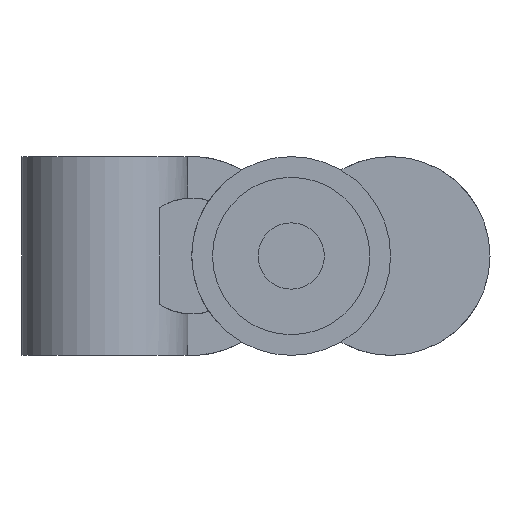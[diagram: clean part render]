
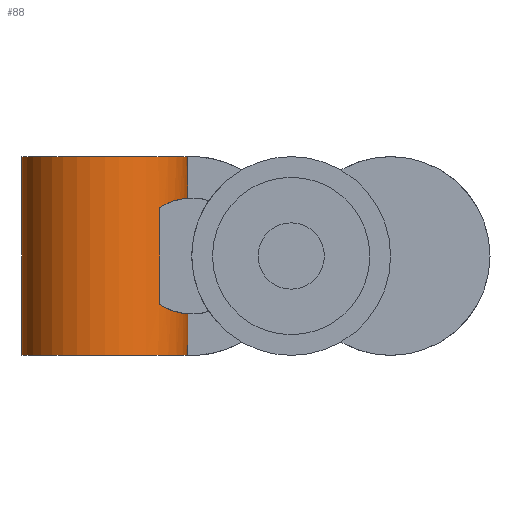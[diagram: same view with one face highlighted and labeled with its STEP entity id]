
A CAD part, front view. The second image highlights one B-rep face of the part: STEP entity #88.
In plain terms, the highlighted cylindrical face has radius 4 mm (diameter 8 mm), a partial arc.
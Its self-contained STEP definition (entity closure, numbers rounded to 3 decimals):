
#88 = ADVANCED_FACE( '', ( #159 ), #160, .T. );
#159 = FACE_OUTER_BOUND( '', #284, .T. );
#160 = CYLINDRICAL_SURFACE( '', #285, 4. );
#284 = EDGE_LOOP( '', ( #485, #486, #487, #488, #489, #490, #491, #492 ) );
#285 = AXIS2_PLACEMENT_3D( '', #493, #494, #495 );
#485 = ORIENTED_EDGE( '', *, *, #876, .F. );
#486 = ORIENTED_EDGE( '', *, *, #877, .F. );
#487 = ORIENTED_EDGE( '', *, *, #878, .F. );
#488 = ORIENTED_EDGE( '', *, *, #879, .T. );
#489 = ORIENTED_EDGE( '', *, *, #880, .F. );
#490 = ORIENTED_EDGE( '', *, *, #881, .F. );
#491 = ORIENTED_EDGE( '', *, *, #882, .F. );
#492 = ORIENTED_EDGE( '', *, *, #883, .F. );
#493 = CARTESIAN_POINT( '', ( -9., 15.5, 4.8 ) );
#494 = DIRECTION( '', ( 0., 0., 1. ) );
#495 = DIRECTION( '', ( 1., 0., 0. ) );
#876 = EDGE_CURVE( '', #1066, #1067, #1068, .T. );
#877 = EDGE_CURVE( '', #1069, #1066, #1070, .T. );
#878 = EDGE_CURVE( '', #1071, #1069, #1072, .T. );
#879 = EDGE_CURVE( '', #1071, #1073, #1074, .T. );
#880 = EDGE_CURVE( '', #1075, #1073, #1076, .T. );
#881 = EDGE_CURVE( '', #1077, #1075, #1078, .T. );
#882 = EDGE_CURVE( '', #1079, #1077, #1080, .T. );
#883 = EDGE_CURVE( '', #1067, #1079, #1081, .T. );
#1066 = VERTEX_POINT( '', #1355 );
#1067 = VERTEX_POINT( '', #1356 );
#1068 = LINE( '', #1357, #1358 );
#1069 = VERTEX_POINT( '', #1359 );
#1070 = CIRCLE( '', #1360, 4. );
#1071 = VERTEX_POINT( '', #1361 );
#1072 = LINE( '', #1362, #1363 );
#1073 = VERTEX_POINT( '', #1364 );
#1074 = CIRCLE( '', #1365, 4. );
#1075 = VERTEX_POINT( '', #1366 );
#1076 = LINE( '', #1367, #1368 );
#1077 = VERTEX_POINT( '', #1369 );
#1078 = B_SPLINE_CURVE_WITH_KNOTS( '', 3, ( #1370, #1371, #1372, #1373, #1374, #1375, #1376, #1377, #1378, #1379, #1380, #1381, #1382, #1383, #1384, #1385, #1386, #1387 ), .UNSPECIFIED., .F., .F., ( 4, 2, 2, 2, 2, 2, 2, 2, 4 ), ( 15.017, 15.236, 15.828, 16.447, 17.065, 17.684, 18.303, 18.921, 19.272 ), .UNSPECIFIED. );
#1079 = VERTEX_POINT( '', #1388 );
#1080 = LINE( '', #1389, #1390 );
#1081 = B_SPLINE_CURVE_WITH_KNOTS( '', 3, ( #1391, #1392, #1393, #1394, #1395, #1396, #1397, #1398, #1399, #1400, #1401, #1402, #1403, #1404, #1405, #1406, #1407, #1408 ), .UNSPECIFIED., .F., .F., ( 4, 2, 2, 2, 2, 2, 2, 2, 4 ), ( 5.131, 5.482, 6.101, 6.719, 7.338, 7.957, 8.575, 9.167, 9.386 ), .UNSPECIFIED. );
#1355 = CARTESIAN_POINT( '', ( -5., 15.5, 4.8 ) );
#1356 = CARTESIAN_POINT( '', ( -5., 15.5, 2.793 ) );
#1357 = CARTESIAN_POINT( '', ( -5., 15.5, 4.8 ) );
#1358 = VECTOR( '', #1703, 1. );
#1359 = CARTESIAN_POINT( '', ( -13., 15.5, 4.8 ) );
#1360 = AXIS2_PLACEMENT_3D( '', #1704, #1705, #1706 );
#1361 = CARTESIAN_POINT( '', ( -13., 15.5, -4.8 ) );
#1362 = CARTESIAN_POINT( '', ( -13., 15.5, 4.8 ) );
#1363 = VECTOR( '', #1707, 1. );
#1364 = CARTESIAN_POINT( '', ( -5., 15.5, -4.8 ) );
#1365 = AXIS2_PLACEMENT_3D( '', #1708, #1709, #1710 );
#1366 = CARTESIAN_POINT( '', ( -5., 15.5, -2.793 ) );
#1367 = CARTESIAN_POINT( '', ( -5., 15.5, 4.8 ) );
#1368 = VECTOR( '', #1711, 1. );
#1369 = CARTESIAN_POINT( '', ( -6.354, 12.5, -2.329 ) );
#1370 = CARTESIAN_POINT( '', ( -6.354, 12.5, -2.329 ) );
#1371 = CARTESIAN_POINT( '', ( -6.302, 12.546, -2.364 ) );
#1372 = CARTESIAN_POINT( '', ( -6.249, 12.596, -2.397 ) );
#1373 = CARTESIAN_POINT( '', ( -6.055, 12.786, -2.508 ) );
#1374 = CARTESIAN_POINT( '', ( -5.919, 12.942, -2.57 ) );
#1375 = CARTESIAN_POINT( '', ( -5.682, 13.257, -2.661 ) );
#1376 = CARTESIAN_POINT( '', ( -5.568, 13.434, -2.695 ) );
#1377 = CARTESIAN_POINT( '', ( -5.366, 13.814, -2.744 ) );
#1378 = CARTESIAN_POINT( '', ( -5.279, 14.017, -2.76 ) );
#1379 = CARTESIAN_POINT( '', ( -5.138, 14.435, -2.78 ) );
#1380 = CARTESIAN_POINT( '', ( -5.085, 14.65, -2.786 ) );
#1381 = CARTESIAN_POINT( '', ( -5.016, 15.08, -2.792 ) );
#1382 = CARTESIAN_POINT( '', ( -5., 15.294, -2.793 ) );
#1383 = CARTESIAN_POINT( '', ( -5., 15.706, -2.793 ) );
#1384 = CARTESIAN_POINT( '', ( -5.016, 15.92, -2.792 ) );
#1385 = CARTESIAN_POINT( '', ( -5.07, 16.257, -2.787 ) );
#1386 = CARTESIAN_POINT( '', ( -5.096, 16.379, -2.785 ) );
#1387 = CARTESIAN_POINT( '', ( -5.127, 16.5, -2.781 ) );
#1388 = CARTESIAN_POINT( '', ( -6.354, 12.5, 2.329 ) );
#1389 = CARTESIAN_POINT( '', ( -6.354, 12.5, 0. ) );
#1390 = VECTOR( '', #1712, 1. );
#1391 = CARTESIAN_POINT( '', ( -5.127, 16.5, 2.781 ) );
#1392 = CARTESIAN_POINT( '', ( -5.096, 16.379, 2.785 ) );
#1393 = CARTESIAN_POINT( '', ( -5.07, 16.257, 2.787 ) );
#1394 = CARTESIAN_POINT( '', ( -5.016, 15.92, 2.792 ) );
#1395 = CARTESIAN_POINT( '', ( -5., 15.706, 2.793 ) );
#1396 = CARTESIAN_POINT( '', ( -5., 15.294, 2.793 ) );
#1397 = CARTESIAN_POINT( '', ( -5.016, 15.08, 2.792 ) );
#1398 = CARTESIAN_POINT( '', ( -5.085, 14.65, 2.786 ) );
#1399 = CARTESIAN_POINT( '', ( -5.138, 14.435, 2.78 ) );
#1400 = CARTESIAN_POINT( '', ( -5.279, 14.017, 2.76 ) );
#1401 = CARTESIAN_POINT( '', ( -5.366, 13.814, 2.744 ) );
#1402 = CARTESIAN_POINT( '', ( -5.568, 13.434, 2.695 ) );
#1403 = CARTESIAN_POINT( '', ( -5.682, 13.257, 2.661 ) );
#1404 = CARTESIAN_POINT( '', ( -5.919, 12.942, 2.57 ) );
#1405 = CARTESIAN_POINT( '', ( -6.055, 12.786, 2.508 ) );
#1406 = CARTESIAN_POINT( '', ( -6.249, 12.596, 2.397 ) );
#1407 = CARTESIAN_POINT( '', ( -6.302, 12.546, 2.364 ) );
#1408 = CARTESIAN_POINT( '', ( -6.354, 12.5, 2.329 ) );
#1703 = DIRECTION( '', ( 0., 0., -1. ) );
#1704 = CARTESIAN_POINT( '', ( -9., 15.5, 4.8 ) );
#1705 = DIRECTION( '', ( 0., 0., 1. ) );
#1706 = DIRECTION( '', ( 1., 0., 0. ) );
#1707 = DIRECTION( '', ( 0., 0., 1. ) );
#1708 = CARTESIAN_POINT( '', ( -9., 15.5, -4.8 ) );
#1709 = DIRECTION( '', ( 0., 0., 1. ) );
#1710 = DIRECTION( '', ( 1., 0., 0. ) );
#1711 = DIRECTION( '', ( 0., 0., -1. ) );
#1712 = DIRECTION( '', ( 0., 0., -1. ) );
